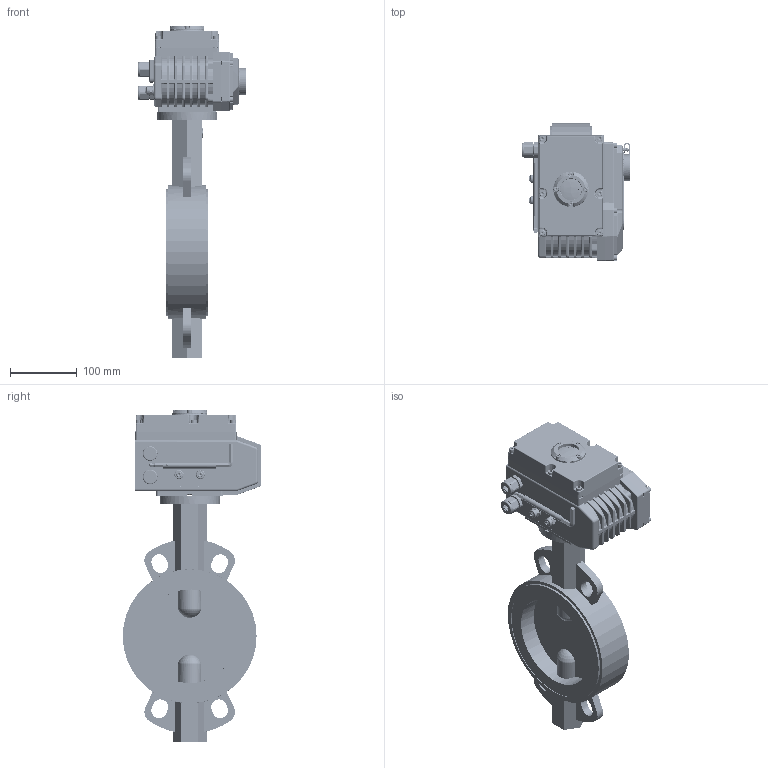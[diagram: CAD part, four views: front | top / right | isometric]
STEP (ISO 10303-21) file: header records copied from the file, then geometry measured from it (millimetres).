
FILE_DESCRIPTION(('STEP AP203'), '1');
FILE_NAME('3D_200_201-150-16-Ï.31', '', ('UNSPECIFIED'), ('UNSPECIFIED'), 'C3D Converter', 'C3D Toolkit', '');
FILE_SCHEMA(('CONFIG_CONTROL_DESIGN'));
Length unit declared in the file: millimetre
Bounding box: 162 x 207 x 496 mm (x, y, z)
Volume: 3743769.8 mm3; surface area: 380367.4 mm2
Topology: 31 solids, 90 shells, 8968 faces, 24613 edges, 15775 vertices
Faces by surface type: plane 4606, cylinder 2324, cone 1105, bspline 534, torus 234, sphere 165
Full cylindrical faces by diameter (mm): 2 x2, 2.5 x1, 3 x3, 3.2 x1, 3.3 x4, 4 x52, 4.2 x32, 4.4 x12, 4.5 x4, 4.7 x12, 5 x202, 5.6 x1, 5.8 x12, 6 x1, 6.647 x12, 6.7 x8, 7 x4, 7.8 x12, 8 x96, 8.25 x2, 10 x5, 10.5 x2, 12 x2, 12.5 x2, 12.73 x4, 16 x2, 18 x2, 19 x2, 20 x2, 22 x2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
Entity records: 624586 total; most frequent: CARTESIAN_POINT 341364, ORIENTED_EDGE 45930, DIRECTION 39666, EDGE_CURVE 22965, VERTEX_POINT 15675, AXIS2_PLACEMENT_3D 13992, LINE 11682, VECTOR 11682
